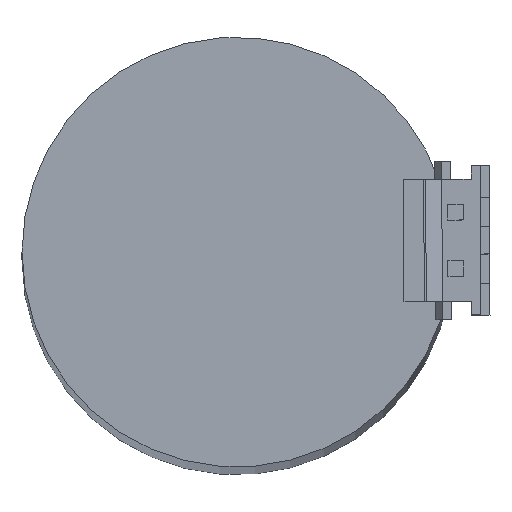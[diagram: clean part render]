
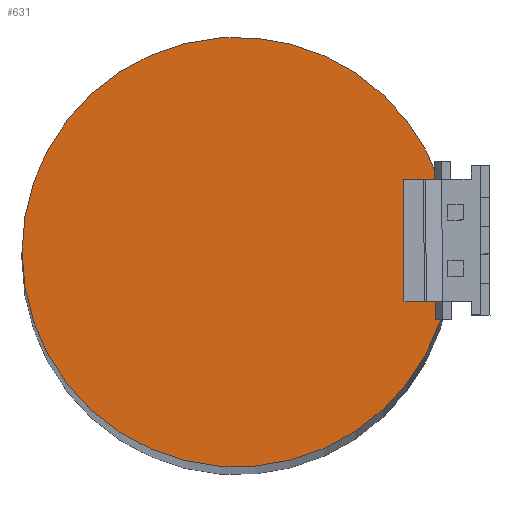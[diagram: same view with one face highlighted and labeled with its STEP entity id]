
A CAD part, top view. The second image highlights one B-rep face of the part: STEP entity #631.
In plain terms, the highlighted planar face has unit normal (0, 0, 1).
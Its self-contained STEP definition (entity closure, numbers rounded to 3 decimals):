
#9 = CIRCLE ( 'NONE', #1742, 0.8 ) ;
#21 = FACE_OUTER_BOUND ( 'NONE', #382, .T. ) ;
#78 = EDGE_CURVE ( 'NONE', #2427, #1398, #2241, .T. ) ;
#129 = DIRECTION ( 'NONE',  ( 1., 0., 0. ) ) ;
#156 = DIRECTION ( 'NONE',  ( 1., 0., 0. ) ) ;
#173 = VERTEX_POINT ( 'NONE', #696 ) ;
#184 = CIRCLE ( 'NONE', #912, 9.5 ) ;
#191 = FACE_BOUND ( 'NONE', #375, .T. ) ;
#195 = ORIENTED_EDGE ( 'NONE', *, *, #2449, .F. ) ;
#205 = EDGE_CURVE ( 'NONE', #1398, #2165, #184, .T. ) ;
#216 = CARTESIAN_POINT ( 'NONE',  ( 0., 0., 200. ) ) ;
#234 = ORIENTED_EDGE ( 'NONE', *, *, #205, .T. ) ;
#280 = PLANE ( 'NONE',  #605 ) ;
#303 = DIRECTION ( 'NONE',  ( 1., 0., 0. ) ) ;
#375 = EDGE_LOOP ( 'NONE', ( #195, #585 ) ) ;
#376 = CIRCLE ( 'NONE', #2616, 0.8 ) ;
#382 = EDGE_LOOP ( 'NONE', ( #234, #2058, #659, #806 ) ) ;
#398 = CARTESIAN_POINT ( 'NONE',  ( -9.5, 0., 200. ) ) ;
#472 = AXIS2_PLACEMENT_3D ( 'NONE', #1740, #2364, #1099 ) ;
#528 = EDGE_CURVE ( 'NONE', #2084, #2427, #1255, .T. ) ;
#547 = CARTESIAN_POINT ( 'NONE',  ( 8.694, 0.956, 200. ) ) ;
#554 = VERTEX_POINT ( 'NONE', #1502 ) ;
#585 = ORIENTED_EDGE ( 'NONE', *, *, #902, .F. ) ;
#605 = AXIS2_PLACEMENT_3D ( 'NONE', #2154, #929, #156 ) ;
#631 = ADVANCED_FACE ( 'NONE', ( #191, #1547, #21 ), #280, .T. ) ;
#659 = ORIENTED_EDGE ( 'NONE', *, *, #528, .T. ) ;
#696 = CARTESIAN_POINT ( 'NONE',  ( 7.894, -0.741, 200. ) ) ;
#806 = ORIENTED_EDGE ( 'NONE', *, *, #78, .T. ) ;
#892 = CARTESIAN_POINT ( 'NONE',  ( 9.5, 0., 200. ) ) ;
#902 = EDGE_CURVE ( 'NONE', #1951, #173, #2014, .T. ) ;
#909 = DIRECTION ( 'NONE',  ( 0., 0., 1. ) ) ;
#912 = AXIS2_PLACEMENT_3D ( 'NONE', #919, #909, #129 ) ;
#919 = CARTESIAN_POINT ( 'NONE',  ( 0., 0., 200. ) ) ;
#928 = DIRECTION ( 'NONE',  ( 0., 0., 1. ) ) ;
#929 = DIRECTION ( 'NONE',  ( 0., 0., 1. ) ) ;
#944 = EDGE_CURVE ( 'NONE', #2165, #2084, #2306, .T. ) ;
#955 = CARTESIAN_POINT ( 'NONE',  ( 7.894, 0.956, 200. ) ) ;
#1091 = AXIS2_PLACEMENT_3D ( 'NONE', #892, #1482, #2121 ) ;
#1099 = DIRECTION ( 'NONE',  ( 1., 0., 0. ) ) ;
#1191 = DIRECTION ( 'NONE',  ( 0., 0., 1. ) ) ;
#1207 = EDGE_CURVE ( 'NONE', #1718, #554, #2497, .T. ) ;
#1227 = CARTESIAN_POINT ( 'NONE',  ( 11., 0., 200. ) ) ;
#1255 = CIRCLE ( 'NONE', #1091, 1.5 ) ;
#1298 = EDGE_CURVE ( 'NONE', #554, #1718, #376, .T. ) ;
#1318 = DIRECTION ( 'NONE',  ( 0., 0., 1. ) ) ;
#1363 = CARTESIAN_POINT ( 'NONE',  ( 9.382, -1.495, 200. ) ) ;
#1398 = VERTEX_POINT ( 'NONE', #1488 ) ;
#1437 = DIRECTION ( 'NONE',  ( 0., 0., 1. ) ) ;
#1482 = DIRECTION ( 'NONE',  ( 0., 0., 1. ) ) ;
#1488 = CARTESIAN_POINT ( 'NONE',  ( 9.382, 1.495, 200. ) ) ;
#1502 = CARTESIAN_POINT ( 'NONE',  ( 9.494, 0.956, 200. ) ) ;
#1525 = AXIS2_PLACEMENT_3D ( 'NONE', #216, #1437, #2384 ) ;
#1547 = FACE_BOUND ( 'NONE', #2517, .T. ) ;
#1591 = DIRECTION ( 'NONE',  ( 1., 0., 0. ) ) ;
#1637 = ORIENTED_EDGE ( 'NONE', *, *, #1298, .F. ) ;
#1677 = DIRECTION ( 'NONE',  ( 0., 0., 1. ) ) ;
#1718 = VERTEX_POINT ( 'NONE', #955 ) ;
#1740 = CARTESIAN_POINT ( 'NONE',  ( 8.694, -0.741, 200. ) ) ;
#1742 = AXIS2_PLACEMENT_3D ( 'NONE', #2185, #1191, #1591 ) ;
#1779 = ORIENTED_EDGE ( 'NONE', *, *, #1207, .F. ) ;
#1951 = VERTEX_POINT ( 'NONE', #2331 ) ;
#2014 = CIRCLE ( 'NONE', #472, 0.8 ) ;
#2055 = CARTESIAN_POINT ( 'NONE',  ( 9.5, 0., 200. ) ) ;
#2058 = ORIENTED_EDGE ( 'NONE', *, *, #944, .T. ) ;
#2084 = VERTEX_POINT ( 'NONE', #1363 ) ;
#2121 = DIRECTION ( 'NONE',  ( 1., 0., 0. ) ) ;
#2153 = DIRECTION ( 'NONE',  ( 1., 0., 0. ) ) ;
#2154 = CARTESIAN_POINT ( 'NONE',  ( 0., 0., 200. ) ) ;
#2165 = VERTEX_POINT ( 'NONE', #398 ) ;
#2185 = CARTESIAN_POINT ( 'NONE',  ( 8.694, -0.741, 200. ) ) ;
#2241 = CIRCLE ( 'NONE', #2442, 1.5 ) ;
#2306 = CIRCLE ( 'NONE', #1525, 9.5 ) ;
#2331 = CARTESIAN_POINT ( 'NONE',  ( 9.494, -0.741, 200. ) ) ;
#2364 = DIRECTION ( 'NONE',  ( 0., 0., 1. ) ) ;
#2370 = CARTESIAN_POINT ( 'NONE',  ( 8.694, 0.956, 200. ) ) ;
#2384 = DIRECTION ( 'NONE',  ( 1., 0., 0. ) ) ;
#2427 = VERTEX_POINT ( 'NONE', #1227 ) ;
#2436 = AXIS2_PLACEMENT_3D ( 'NONE', #547, #1318, #2153 ) ;
#2442 = AXIS2_PLACEMENT_3D ( 'NONE', #2055, #1677, #2500 ) ;
#2449 = EDGE_CURVE ( 'NONE', #173, #1951, #9, .T. ) ;
#2497 = CIRCLE ( 'NONE', #2436, 0.8 ) ;
#2500 = DIRECTION ( 'NONE',  ( 1., 0., 0. ) ) ;
#2517 = EDGE_LOOP ( 'NONE', ( #1779, #1637 ) ) ;
#2616 = AXIS2_PLACEMENT_3D ( 'NONE', #2370, #928, #303 ) ;
